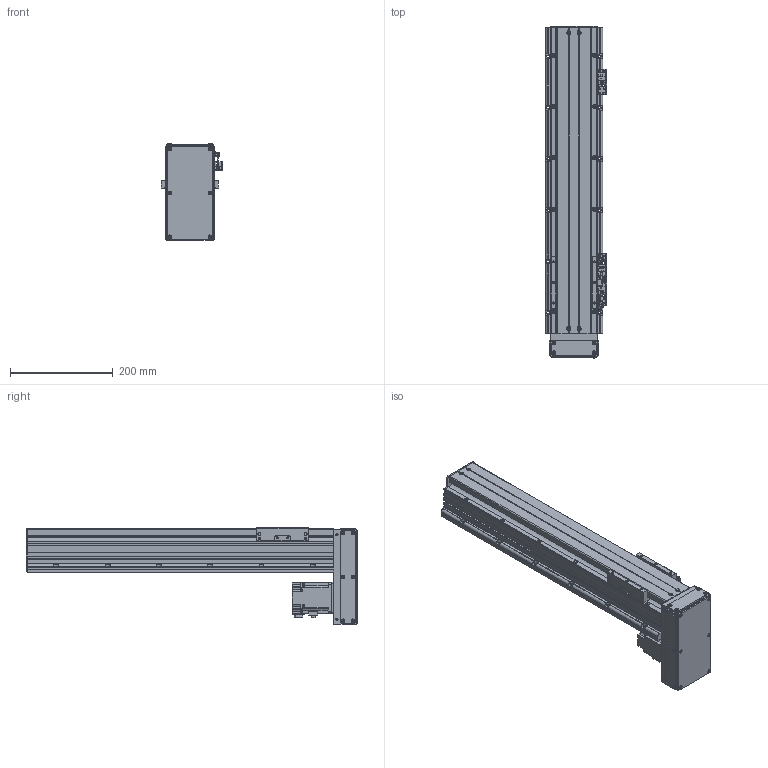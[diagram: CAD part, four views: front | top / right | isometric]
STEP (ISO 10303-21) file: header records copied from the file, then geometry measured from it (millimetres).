
FILE_DESCRIPTION(/* description */ ('MANUFACTURE','CAx-IF Rec.Pracs.---Representation and Presentation of Product Manufacturing Information (PMI)---4.0---2014-10-13'),/* implementation_level */ '2;1');
FILE_NAME(/* name */ '\\192.168.0.160\disk1\HAN SHIN Master\B-설계부문\C-표준\B-2024년\BC02-표준도면\+로봇 개선표준도면\표준 승인도 폴더 - 재작업\3D\HS Type\HS90 - 1RAIL\D - Type\HS90-D20-N1B-0400-R10.stp',/* time_stamp */ '2024-08-26T15:00:11+09:00',/* author */ ('user'),/* organization */ (''),/* preprocessor_version */ 'ST-DEVELOPER v18.1',/* originating_system */ 'Autodesk Inventor 2022',/* authorisation */ 'LIP');
FILE_SCHEMA (('AP242_MANAGED_MODEL_BASED_3D_ENGINEERING_MIM_LF { 1 0 10303 442 1 1 4 }'));
Products named in the file (25): HS90-D20-N1B-0700-R10 (간소화); BASE; UPCOVER; SIDE COVER; HS90 SIDE COVER - 200W 1BLOCK-MIRROR; HR90 FRONT BLOCK; HR90 REAR BLOCK TENSION; S 20R_BLOCK; REAR COVER; STOPPER3; HR120 SENSOR DOG; hg-kr23_; hsr_ftht_A-M6F_grease_nipple_joint; NIPPLE CAP(신규); STOPPER104; MOTOR PLATE-200W(MITSUBISHI); LMKE1520 NUT; HS90 TABLE-SR20W; HS90-D MOTOR PLATE; HS90 D- BELT COVER; HG90DACRYLCOVER001; HG90DACRYLCOVER003; HG90DACRYLCOVER002; SENSOR BRK(EE-SX674A); EE_SX674A
Assembly tree (32 placements, depth 2):
  HS90-D20-N1B-0700-R10 (간소화)
    BASE
    UPCOVER
    SIDE COVER
    HS90 SIDE COVER - 200W 1BLOCK-MIRROR
    HR90 FRONT BLOCK
    HR90 REAR BLOCK TENSION
    S 20R_BLOCK
    REAR COVER
    STOPPER3
    HR120 SENSOR DOG
    SENSOR BRK(EE-SX674A)  x3
    EE_SX674A  x3
    hsr_ftht_A-M6F_grease_nipple_joint  x2
    NIPPLE CAP(신규)  x2
    hg-kr23_
    STOPPER104  x2
    MOTOR PLATE-200W(MITSUBISHI)
    LMKE1520 NUT
    HS90 TABLE-SR20W
    HS90-D MOTOR PLATE
    HS90 D- BELT COVER
    HG90DACRYLCOVER001
    HG90DACRYLCOVER002  x2
    HG90DACRYLCOVER003
Bounding box: 120 x 647 x 187.5 mm (x, y, z)
Volume: 2329274.5 mm3; surface area: 836270 mm2
Topology: 32 solids, 32 shells, 1955 faces, 5355 edges, 3507 vertices
Faces by surface type: plane 1023, cylinder 718, cone 178, sphere 16, torus 12, bspline 8
Full cylindrical faces by diameter (mm): 2.459 x50, 3 x4, 3.242 x54, 3.4 x22, 3.5 x6, 4.134 x51, 4.5 x41, 4.917 x17, 5 x26, 5.5 x13, 5.6 x10, 5.7 x4, 5.8 x4, 5.9 x8, 6 x12, 6.2 x4, 6.5 x4, 8 x5, 9.5 x13, 14 x1, 15 x2, 17 x1, 20 x1, 25 x2, 28 x1, 32 x2, 33.7 x1, 34 x1, 50 x2
Entity records: 61825 total; most frequent: CARTESIAN_POINT 12394, DIRECTION 9956, ORIENTED_EDGE 9020, EDGE_CURVE 4510, AXIS2_PLACEMENT_3D 3609, VERTEX_POINT 3002, LINE 2738, VECTOR 2738
